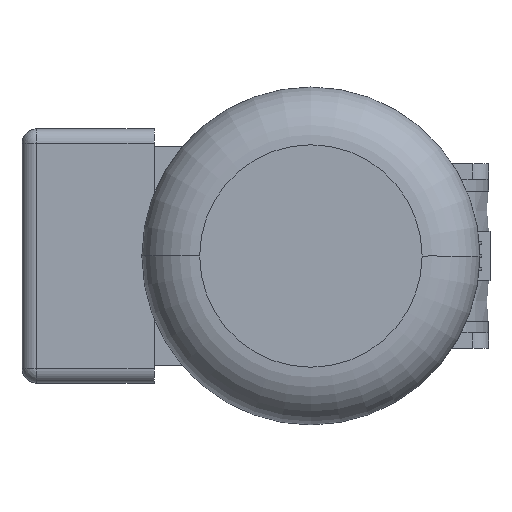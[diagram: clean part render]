
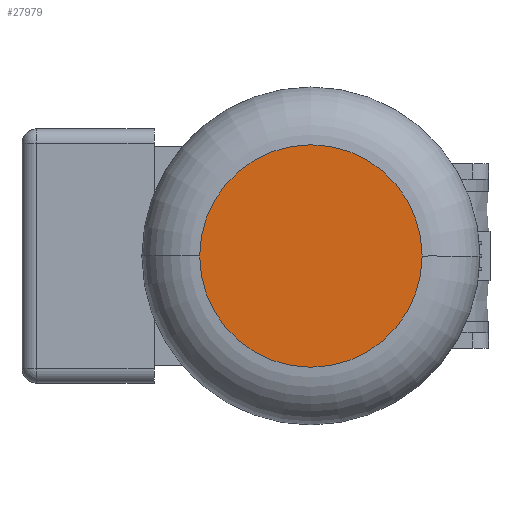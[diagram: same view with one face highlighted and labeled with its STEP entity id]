
A CAD part, left-side view. The second image highlights one B-rep face of the part: STEP entity #27979.
In plain terms, the highlighted planar face has unit normal (-1, 0, 0).
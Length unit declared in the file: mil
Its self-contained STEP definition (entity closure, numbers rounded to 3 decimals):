
#2292 = AXIS2_PLACEMENT_3D ( 'NONE', #15140, #10678, #8124 ) ;
#4516 = CIRCLE ( 'NONE', #12807, 1515.748 ) ;
#4672 = EDGE_CURVE ( 'NONE', #22491, #22306, #4516, .T. ) ;
#8124 = DIRECTION ( 'NONE',  ( 0., 1., 0. ) ) ;
#10678 = DIRECTION ( 'NONE',  ( -1., 0., 0. ) ) ;
#11770 = CARTESIAN_POINT ( 'NONE',  ( -9192.913, 2618.11, 0. ) ) ;
#11894 = DIRECTION ( 'NONE',  ( -1., 0., 0. ) ) ;
#12807 = AXIS2_PLACEMENT_3D ( 'NONE', #29258, #15351, #17689 ) ;
#13775 = CIRCLE ( 'NONE', #20856, 1515.748 ) ;
#15140 = CARTESIAN_POINT ( 'NONE',  ( -9192.913, 1102.362, 0. ) ) ;
#15351 = DIRECTION ( 'NONE',  ( -1., 0., 0. ) ) ;
#15451 = ORIENTED_EDGE ( 'NONE', *, *, #17224, .T. ) ;
#17224 = EDGE_CURVE ( 'NONE', #22306, #22491, #13775, .T. ) ;
#17416 = EDGE_LOOP ( 'NONE', ( #19010, #15451 ) ) ;
#17689 = DIRECTION ( 'NONE',  ( 0., 1., 0. ) ) ;
#19010 = ORIENTED_EDGE ( 'NONE', *, *, #4672, .T. ) ;
#20856 = AXIS2_PLACEMENT_3D ( 'NONE', #21304, #11894, #28177 ) ;
#21304 = CARTESIAN_POINT ( 'NONE',  ( -9192.913, 1102.362, 0. ) ) ;
#22306 = VERTEX_POINT ( 'NONE', #25505 ) ;
#22491 = VERTEX_POINT ( 'NONE', #11770 ) ;
#25505 = CARTESIAN_POINT ( 'NONE',  ( -9192.913, -413.386, 0. ) ) ;
#26814 = PLANE ( 'NONE',  #2292 ) ;
#27060 = FACE_OUTER_BOUND ( 'NONE', #17416, .T. ) ;
#27979 = ADVANCED_FACE ( 'NONE', ( #27060 ), #26814, .T. ) ;
#28177 = DIRECTION ( 'NONE',  ( 0., 1., 0. ) ) ;
#29258 = CARTESIAN_POINT ( 'NONE',  ( -9192.913, 1102.362, 0. ) ) ;
